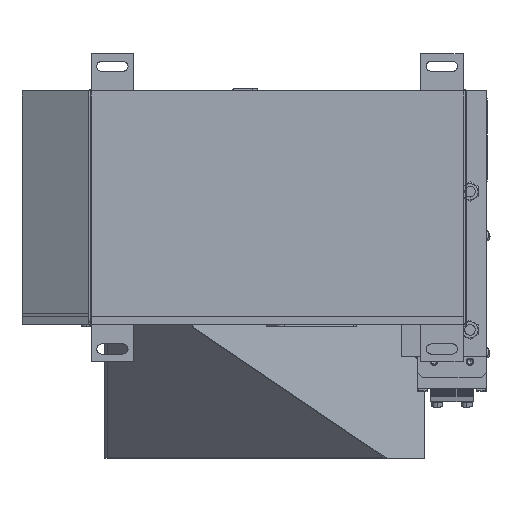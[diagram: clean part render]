
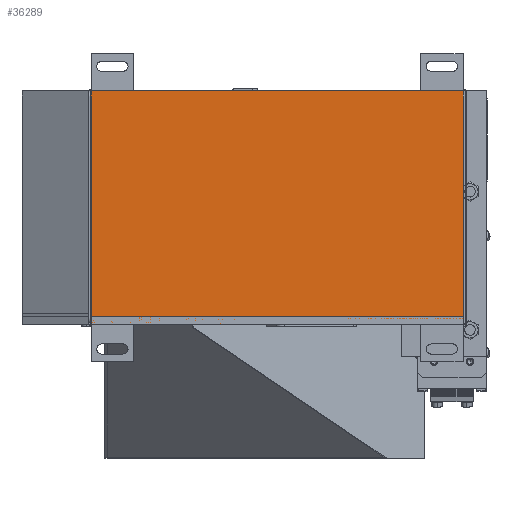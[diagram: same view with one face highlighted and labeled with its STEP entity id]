
A CAD part, front view. The second image highlights one B-rep face of the part: STEP entity #36289.
In plain terms, the highlighted planar face has unit normal (0, -1, 0).
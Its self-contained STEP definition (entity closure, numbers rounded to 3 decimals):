
#2952 = CARTESIAN_POINT ( 'NONE',  ( 135., -180., -110.001 ) ) ;
#4213 = CARTESIAN_POINT ( 'NONE',  ( 135., -180., 104.667 ) ) ;
#5015 = CARTESIAN_POINT ( 'NONE',  ( -215., -180., 31.333 ) ) ;
#5277 = CARTESIAN_POINT ( 'NONE',  ( -215., -180., 102. ) ) ;
#7988 = ORIENTED_EDGE ( 'NONE', *, *, #16184, .T. ) ;
#9042 = VERTEX_POINT ( 'NONE', #89074 ) ;
#10672 = EDGE_CURVE ( 'NONE', #43874, #58496, #11156, .T. ) ;
#10940 = CARTESIAN_POINT ( 'NONE',  ( 135., -180., 102. ) ) ;
#11156 = B_SPLINE_CURVE_WITH_KNOTS ( 'NONE', 3,
 ( #58421, #18012, #34565, #57920 ),
 .UNSPECIFIED., .F., .F.,
 ( 4, 4 ),
 ( 0., 1. ),
 .UNSPECIFIED. ) ;
#14808 = CARTESIAN_POINT ( 'NONE',  ( -215., -180., -39.335 ) ) ;
#16116 = ORIENTED_EDGE ( 'NONE', *, *, #10672, .T. ) ;
#16184 = EDGE_CURVE ( 'NONE', #53339, #43874, #78665, .T. ) ;
#18012 = CARTESIAN_POINT ( 'NONE',  ( -215., -180., 107.333 ) ) ;
#19040 = VERTEX_POINT ( 'NONE', #82687 ) ;
#21871 = CARTESIAN_POINT ( 'NONE',  ( -98.333, -180., -110. ) ) ;
#22250 = CARTESIAN_POINT ( 'NONE',  ( 135., -180., 110. ) ) ;
#22321 = B_SPLINE_CURVE_WITH_KNOTS ( 'NONE', 3,
 ( #84200, #14808, #5015, #69207 ),
 .UNSPECIFIED., .F., .F.,
 ( 4, 4 ),
 ( 0., 1. ),
 .UNSPECIFIED. ) ;
#23930 = CARTESIAN_POINT ( 'NONE',  ( 18.333, -180., -110. ) ) ;
#24037 = EDGE_CURVE ( 'NONE', #9042, #28410, #31345, .T. ) ;
#28212 = CARTESIAN_POINT ( 'NONE',  ( 135., -180., 31.333 ) ) ;
#28410 = VERTEX_POINT ( 'NONE', #2952 ) ;
#31345 = B_SPLINE_CURVE_WITH_KNOTS ( 'NONE', 3,
 ( #63814, #21871, #23930, #62787 ),
 .UNSPECIFIED., .F., .F.,
 ( 4, 4 ),
 ( 0., 1. ),
 .UNSPECIFIED. ) ;
#32907 = B_SPLINE_CURVE_WITH_KNOTS ( 'NONE', 3,
 ( #10940, #4213, #36280, #75636 ),
 .UNSPECIFIED., .F., .F.,
 ( 4, 4 ),
 ( 0., 1. ),
 .UNSPECIFIED. ) ;
#34565 = CARTESIAN_POINT ( 'NONE',  ( -215., -180., 104.667 ) ) ;
#36280 = CARTESIAN_POINT ( 'NONE',  ( 135., -180., 107.333 ) ) ;
#36289 = ADVANCED_FACE ( 'NONE', ( #95369 ), #60631, .F. ) ;
#38285 = CARTESIAN_POINT ( 'NONE',  ( -98.333, -180., 110. ) ) ;
#38809 = CARTESIAN_POINT ( 'NONE',  ( -215., -180., 110. ) ) ;
#40401 = ORIENTED_EDGE ( 'NONE', *, *, #24037, .T. ) ;
#43874 = VERTEX_POINT ( 'NONE', #91446 ) ;
#45298 = CARTESIAN_POINT ( 'NONE',  ( 135., -180., 102. ) ) ;
#50716 = EDGE_CURVE ( 'NONE', #28410, #19040, #53448, .T. ) ;
#51859 = CARTESIAN_POINT ( 'NONE',  ( 135., -180., 110. ) ) ;
#53339 = VERTEX_POINT ( 'NONE', #84529 ) ;
#53448 = B_SPLINE_CURVE_WITH_KNOTS ( 'NONE', 3,
 ( #91349, #100144, #28212, #45298 ),
 .UNSPECIFIED., .F., .F.,
 ( 4, 4 ),
 ( 0., 1. ),
 .UNSPECIFIED. ) ;
#53757 = ORIENTED_EDGE ( 'NONE', *, *, #67547, .T. ) ;
#57920 = CARTESIAN_POINT ( 'NONE',  ( -215., -180., 102. ) ) ;
#58421 = CARTESIAN_POINT ( 'NONE',  ( -215., -180., 110. ) ) ;
#58496 = VERTEX_POINT ( 'NONE', #5277 ) ;
#60631 = PLANE ( 'NONE',  #102013 ) ;
#61844 = ORIENTED_EDGE ( 'NONE', *, *, #92075, .F. ) ;
#62787 = CARTESIAN_POINT ( 'NONE',  ( 135., -180., -110.001 ) ) ;
#63814 = CARTESIAN_POINT ( 'NONE',  ( -215., -180., -110.001 ) ) ;
#67547 = EDGE_CURVE ( 'NONE', #19040, #53339, #32907, .T. ) ;
#69207 = CARTESIAN_POINT ( 'NONE',  ( -215., -180., 102. ) ) ;
#75636 = CARTESIAN_POINT ( 'NONE',  ( 135., -180., 110. ) ) ;
#77644 = CARTESIAN_POINT ( 'NONE',  ( 18.333, -180., 110. ) ) ;
#78665 = B_SPLINE_CURVE_WITH_KNOTS ( 'NONE', 3,
 ( #22250, #77644, #38285, #38809 ),
 .UNSPECIFIED., .F., .F.,
 ( 4, 4 ),
 ( 0., 1. ),
 .UNSPECIFIED. ) ;
#82381 = DIRECTION ( 'NONE',  ( 0., 1., 0. ) ) ;
#82687 = CARTESIAN_POINT ( 'NONE',  ( 135., -180., 102. ) ) ;
#84200 = CARTESIAN_POINT ( 'NONE',  ( -215., -180., -110.001 ) ) ;
#84529 = CARTESIAN_POINT ( 'NONE',  ( 135., -180., 110. ) ) ;
#89074 = CARTESIAN_POINT ( 'NONE',  ( -215., -180., -110.001 ) ) ;
#89285 = EDGE_LOOP ( 'NONE', ( #7988, #16116, #61844, #40401, #90753, #53757 ) ) ;
#90753 = ORIENTED_EDGE ( 'NONE', *, *, #50716, .T. ) ;
#91142 = DIRECTION ( 'NONE',  ( 1., 0., 0. ) ) ;
#91349 = CARTESIAN_POINT ( 'NONE',  ( 135., -180., -110.001 ) ) ;
#91446 = CARTESIAN_POINT ( 'NONE',  ( -215., -180., 110. ) ) ;
#92075 = EDGE_CURVE ( 'NONE', #9042, #58496, #22321, .T. ) ;
#95369 = FACE_OUTER_BOUND ( 'NONE', #89285, .T. ) ;
#100144 = CARTESIAN_POINT ( 'NONE',  ( 135., -180., -39.333 ) ) ;
#102013 = AXIS2_PLACEMENT_3D ( 'NONE', #51859, #82381, #91142 ) ;
